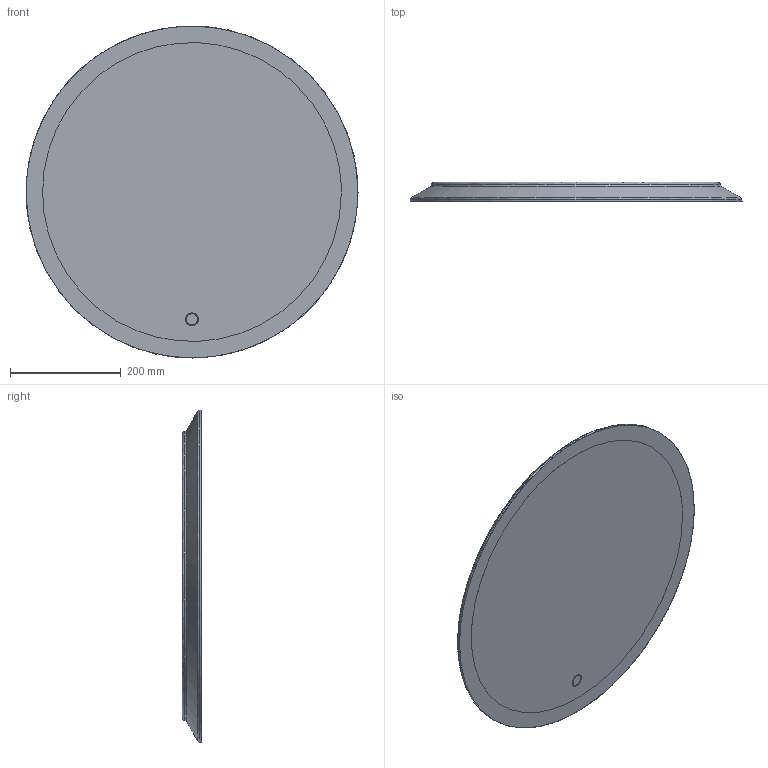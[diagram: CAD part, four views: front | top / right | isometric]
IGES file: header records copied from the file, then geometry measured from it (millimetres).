
Global section: file name: 502797; native system: Autodesk Inventor 2021; preprocessor: unknown; author: JANAN; date: 20221202.150724; units: millimetre
Bounding box: 600 x 35.1 x 600 mm (x, y, z)
Volume: 8651191.5 mm3; surface area: 1264968.8 mm2
Topology: 4 solids, 4 shells, 25 faces, 55 edges, 41 vertices
Faces by surface type: bspline 25
